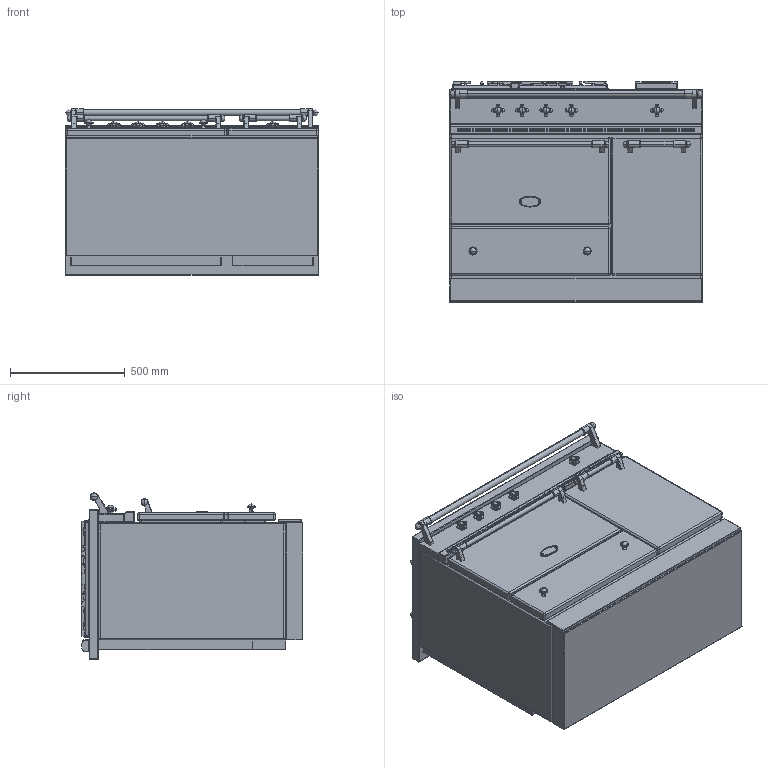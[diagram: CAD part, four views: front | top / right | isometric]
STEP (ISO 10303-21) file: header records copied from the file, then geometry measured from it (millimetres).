
FILE_DESCRIPTION((''),'2;1');
FILE_NAME('LG1132_SAVIGNY_ASM','2021-12-02T10:00:20',('r.avril'),(''),'CREO PARAMETRIC BY PTC INC, 2017260','CREO PARAMETRIC BY PTC INC, 2017260','');
FILE_SCHEMA(('AP203_CONFIGURATION_CONTROLLED_3D_DESIGN_OF_MECHANICAL_PARTS_AND_ASSEMBLIES_MIM_LF { 1 0 10303 403 2 1 2 }'));
Products named in the file (26): BASE_EXPORT_CHAMBERTIN_LG1131; 65650003; 65650004; 6531940; 6531941; 6531943; 65049009; 65650001; 6538399; 1931942; 65080022_AF0; 6531942_ASM; BASE_EXPORT_SAVIGNY_LG1132_ASM; TABLE_1105D_CLASSIQUE_3_FEUX; 5KW; 1_5KW; 3KW; 6537025; 65149005; 90000488_ASM; 6537023; 90000565_ASM; CHEMINEE_2020_LG182_EXPORT_STEP; CHEMINEE_2020_LG371_EXPORT_STEP; TABLE_1105D_CLASSIQUE_3_FEUX_ASM; LG1132_SAVIGNY_ASM
Assembly tree (40 placements, depth 4):
  LG1132_SAVIGNY_ASM
    BASE_EXPORT_SAVIGNY_LG1132_ASM
      BASE_EXPORT_CHAMBERTIN_LG1131
      65650003
      65650004
      6531940  x2
      6531941  x2
      6531943  x2
      65049009
      65650001
      6531942_ASM  x5
        6538399
        1931942
        65080022_AF0
    TABLE_1105D_CLASSIQUE_3_FEUX_ASM
      TABLE_1105D_CLASSIQUE_3_FEUX
      5KW
      1_5KW
      3KW
      90000488_ASM  x2
        6537025
        65149005
      90000565_ASM
        6537023
        65149005  x4
      CHEMINEE_2020_LG182_EXPORT_STEP
      CHEMINEE_2020_LG371_EXPORT_STEP
Bounding box: 1105 x 965 x 724 mm (x, y, z)
Volume: 401219829.5 mm3; surface area: 10338296.2 mm2
Topology: 54 solids, 62 shells, 5846 faces, 14950 edges, 9215 vertices
Faces by surface type: plane 2325, cylinder 1829, bspline 815, cone 259, torus 238, sphere 206, extrusion 162, revolution 12
Entity records: 157419 total; most frequent: CARTESIAN_POINT 49485, ORIENTED_EDGE 18586, DIRECTION 16672, EDGE_CURVE 9303, VERTEX_POINT 5754, AXIS2_PLACEMENT_3D 5722, VECTOR 5147, LINE 5097
